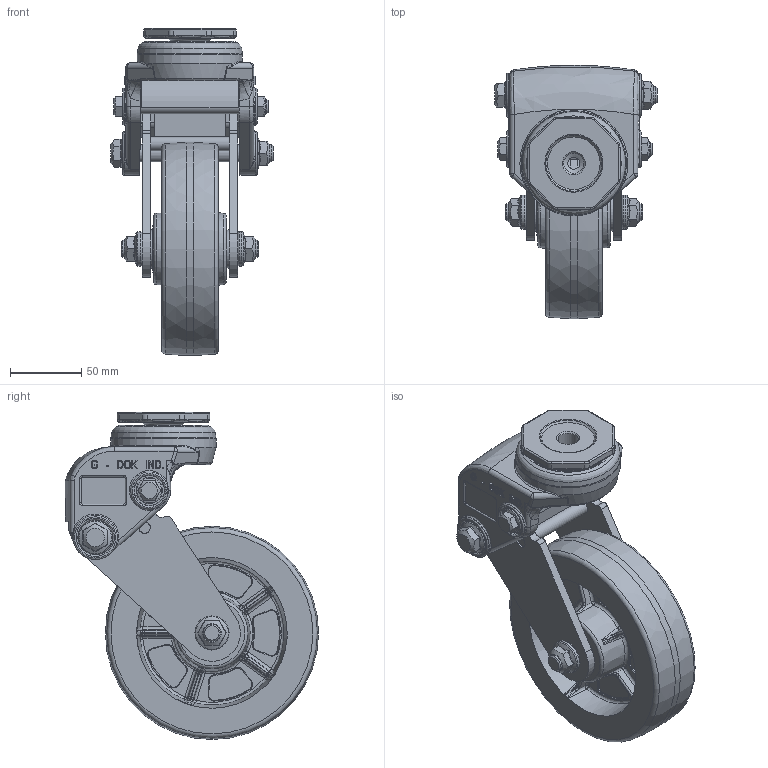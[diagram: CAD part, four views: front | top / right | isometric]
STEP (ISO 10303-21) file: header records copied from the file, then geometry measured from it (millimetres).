
FILE_DESCRIPTION((''),'2;1');
FILE_NAME('C:\Documents and Settings\Administrator\바탕 화면\3D STEP\GDS-SERIES\GDS-150\GDS-150A-SS.stp','2010-12-27T13:52:04',('Administrator'),(''),'Autodesk Inventor 2009','Autodesk Inventor 2009','');
FILE_SCHEMA(('AUTOMOTIVE_DESIGN { 1 0 10303 214 1 1 1 1 }'));
Length unit declared in the file: millimetre
Products named in the file (1): GDS-150A-SS
Bounding box: 114.5 x 178.09 x 230.14 mm (x, y, z)
Volume: 927829.9 mm3; surface area: 207504.7 mm2
Topology: 10 solids, 10 shells, 1525 faces, 3778 edges, 2329 vertices
Faces by surface type: bspline 530, plane 482, cylinder 283, torus 133, cone 93, sphere 4
Full cylindrical faces by diameter (mm): 7.8 x2, 8.2 x2, 8.5 x1, 10 x4, 12 x6, 12.2 x4, 13.4 x2, 14.21 x1, 15 x4, 18 x1, 18.6 x2, 18.9 x1, 20 x1, 21.667 x4, 24 x4, 26 x2, 27 x4, 28.333 x4, 30 x2, 30.6 x1, 31 x2, 35 x2, 35.02 x2, 39 x1, 41.54 x1, 42.34 x1, 74 x1, 150 x1
Entity records: 68037 total; most frequent: CARTESIAN_POINT 35670, ORIENTED_EDGE 7068, DIRECTION 5910, EDGE_CURVE 3534, AXIS2_PLACEMENT_3D 2362, VERTEX_POINT 2276, EDGE_LOOP 1810, FACE_OUTER_BOUND 1525
